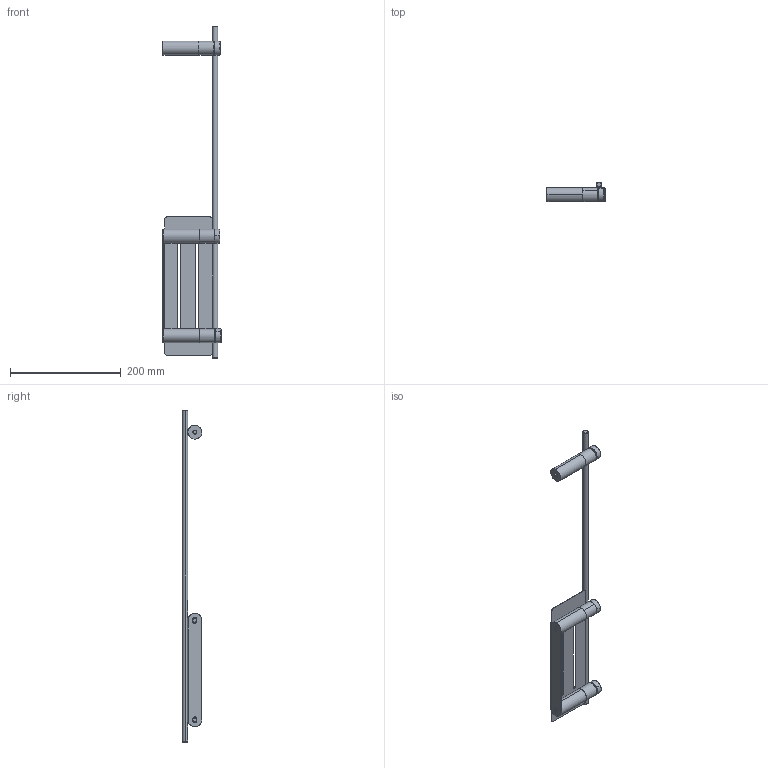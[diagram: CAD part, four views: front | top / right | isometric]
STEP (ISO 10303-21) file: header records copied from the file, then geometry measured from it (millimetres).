
FILE_DESCRIPTION (( 'STEP AP214' ), '1' );
FILE_NAME ('Wieszak na rêczniki z pó³k¹ MAURA 60cm.STEP', '2024-07-04T09:46:24', ( '' ), ( '' ), 'SwSTEP 2.0', 'SolidWorks 2021', '' );
FILE_SCHEMA (( 'AUTOMOTIVE_DESIGN' ));
Length unit declared in the file: millimetre
Products named in the file (7): 01-012-0250-W-00-00; 02-014-0600-W-00-01; Œruba M10; Przed逝磬a M10; Dystans monta¿owy; Wieszak na rêczniki z pó³k¹ MAURA 60cm; 02-014-0400-W-00-02
Assembly tree (13 placements, depth 2):
  Wieszak na rêczniki z pó³k¹ MAURA 60cm
    Dystans monta¿owy  x3
    01-012-0250-W-00-00
    02-014-0600-W-00-01
    02-014-0400-W-00-02  x2
    Przed逝磬a M10  x3
    Œruba M10  x3
Bounding box: 105 x 35.16 x 600 mm (x, y, z)
Volume: 221937.7 mm3; surface area: 118209.2 mm2
Topology: 13 solids, 13 shells, 386 faces, 990 edges, 642 vertices
Faces by surface type: cylinder 246, plane 86, bspline 44, torus 10
Entity records: 12711 total; most frequent: CARTESIAN_POINT 8809, ORIENTED_EDGE 836, DIRECTION 681, EDGE_CURVE 418, VERTEX_POINT 270, AXIS2_PLACEMENT_3D 262, EDGE_LOOP 180, FACE_OUTER_BOUND 164
